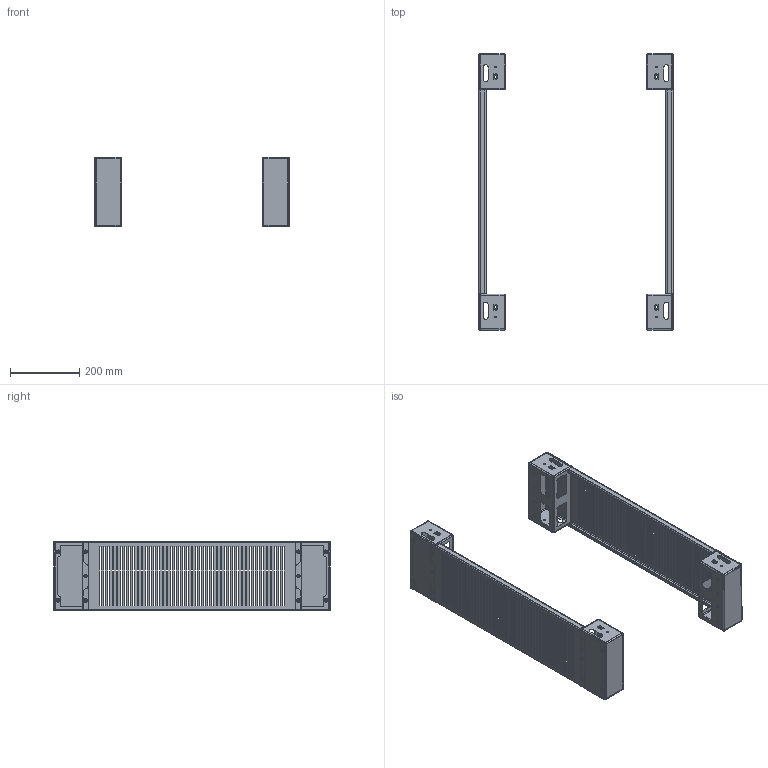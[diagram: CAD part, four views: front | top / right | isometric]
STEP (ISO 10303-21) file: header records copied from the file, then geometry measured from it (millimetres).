
FILE_DESCRIPTION(('STEP AP203'), '1');
FILE_NAME('3990 ÑÁ Ïåðåäíèå è çàäíèå ýëåìåíòû öîêîëÿ', '', ('UNSPECIFIED'), ('UNSPECIFIED'), 'C3D Converter', 'C3D Toolkit', '');
FILE_SCHEMA(('CONFIG_CONTROL_DESIGN'));
Length unit declared in the file: millimetre
Products named in the file (8): 3990.20.80.П СБ; 3102; 3101; 3103; 3105
Assembly tree (28 placements, depth 3):
  3990.20.80.П СБ
    3102  x4
      3101
      3103
      (unnamed)
      (unnamed)
    (unnamed)  x4
    3105  x2
    (unnamed)  x8
Bounding box: 560 x 798 x 200.5 mm (x, y, z)
Volume: 920195.2 mm3; surface area: 1148384 mm2
Topology: 54 solids, 54 shells, 3392 faces, 9536 edges, 6340 vertices
Faces by surface type: cylinder 1848, plane 1336, cone 124, sphere 64, torus 20
Full cylindrical faces by diameter (mm): 4.134 x20, 5 x28, 5.8 x20, 6.9 x20, 7 x16, 7.2 x20, 8.376 x4, 9.2 x20
Entity records: 18964 total; most frequent: CARTESIAN_POINT 3959, DIRECTION 2905, ORIENTED_EDGE 2840, EDGE_CURVE 1420, LINE 1079, VECTOR 1079, VERTEX_POINT 937, AXIS2_PLACEMENT_3D 913
